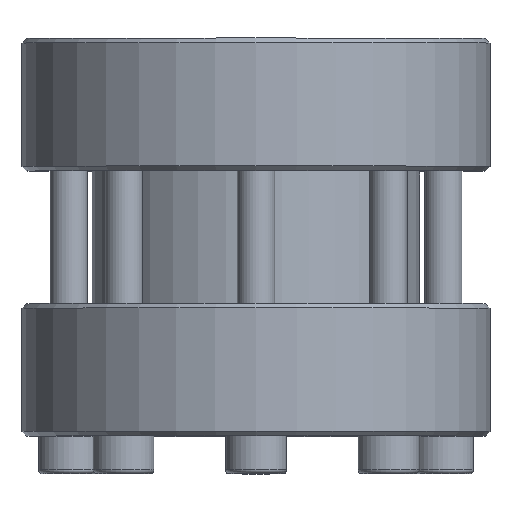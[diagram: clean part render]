
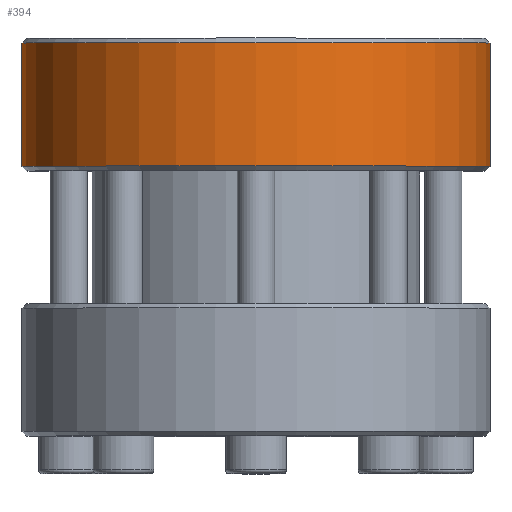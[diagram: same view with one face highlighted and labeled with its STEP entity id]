
A CAD part, top view. The second image highlights one B-rep face of the part: STEP entity #394.
In plain terms, the highlighted cylindrical face has radius 50 mm (diameter 100 mm), a full revolution.
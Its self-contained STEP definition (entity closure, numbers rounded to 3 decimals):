
#394 = ADVANCED_FACE( '', ( #654, #655 ), #656, .T. );
#654 = FACE_OUTER_BOUND( '', #844, .T. );
#655 = FACE_OUTER_BOUND( '', #845, .T. );
#656 = CYLINDRICAL_SURFACE( '', #846, 50. );
#844 = EDGE_LOOP( '', ( #1139 ) );
#845 = EDGE_LOOP( '', ( #1140 ) );
#846 = AXIS2_PLACEMENT_3D( '', #1141, #1142, #1143 );
#1139 = ORIENTED_EDGE( '', *, *, #1436, .T. );
#1140 = ORIENTED_EDGE( '', *, *, #1452, .T. );
#1141 = CARTESIAN_POINT( '', ( 0., -60., 0. ) );
#1142 = DIRECTION( '', ( 0., 1., 0. ) );
#1143 = DIRECTION( '', ( 0., 0., -1. ) );
#1436 = EDGE_CURVE( '', #1618, #1618, #1619, .T. );
#1452 = EDGE_CURVE( '', #1645, #1645, #1646, .T. );
#1618 = VERTEX_POINT( '', #1793 );
#1619 = CIRCLE( '', #1794, 50. );
#1645 = VERTEX_POINT( '', #1821 );
#1646 = CIRCLE( '', #1822, 50. );
#1793 = CARTESIAN_POINT( '', ( 0., 84., -50. ) );
#1794 = AXIS2_PLACEMENT_3D( '', #1931, #1932, #1933 );
#1821 = CARTESIAN_POINT( '', ( 0., 57.667, 50. ) );
#1822 = AXIS2_PLACEMENT_3D( '', #1977, #1978, #1979 );
#1931 = CARTESIAN_POINT( '', ( 0., 84., 0. ) );
#1932 = DIRECTION( '', ( 0., -1., 0. ) );
#1933 = DIRECTION( '', ( 0., 0., -1. ) );
#1977 = CARTESIAN_POINT( '', ( 0., 57.667, 0. ) );
#1978 = DIRECTION( '', ( 0., 1., 0. ) );
#1979 = DIRECTION( '', ( 0., 0., 1. ) );
